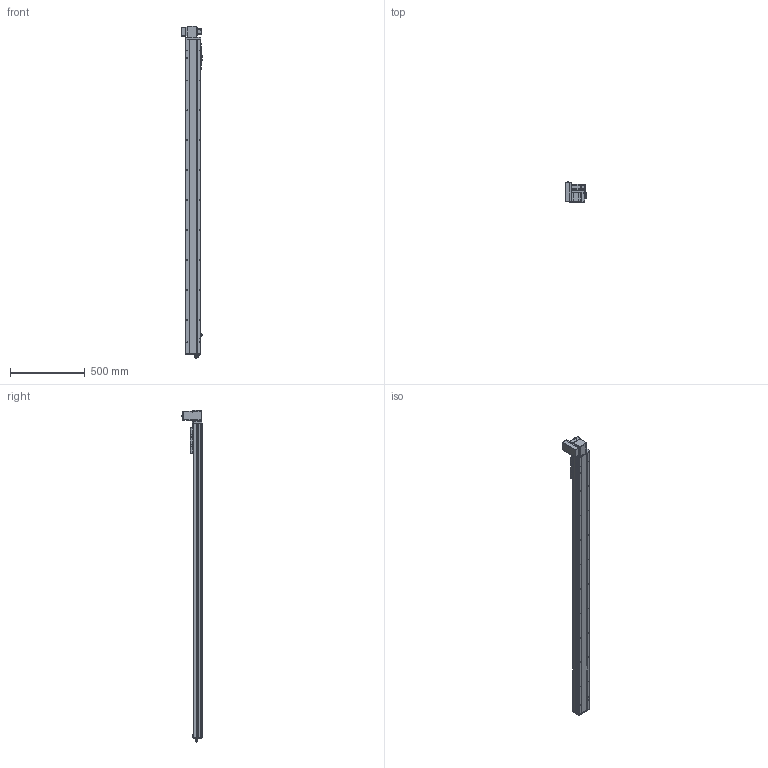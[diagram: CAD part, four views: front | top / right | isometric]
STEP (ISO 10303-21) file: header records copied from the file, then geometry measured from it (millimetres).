
FILE_DESCRIPTION (( 'STEP AP214' ), '1' );
FILE_NAME ('TPE10-L32-1850-LU-T10-C4.STEP', '2023-03-13T06:51:34', ( '' ), ( '' ), 'SwSTEP 2.0', 'SolidWorks 2020', '' );
FILE_SCHEMA (( 'AUTOMOTIVE_DESIGN' ));
Length unit declared in the file: millimetre
Products named in the file (15): 葩璃 TPF10 詩湍揤啣 TPF10 12^TPE10-L32-LU-T10-C4; 葩璃 TPT10-L-009 萇儂啣^TPE10-L32-LU-T10-C4_100W; 葩璃 TPE10-L-002 耜裔ZTMT-102B-04^TPE10-L32-LU-T10-C4; TPE10-L32-1850-LU-T10-C4; 葩璃 pm-t65-672^TPE10-L32-LU-T10-C4; 葩璃 侂狟100W^TPE10-L32-LU-T10-C4; 葩璃 TPE10 賑雄殤 TPE10^TPE10-L32-LU-T10-C4; 葩璃 PL8-02^TPE10-L32-LU-T10-C4; 葩璃 TPE10-007 々湍釱MZ-169x88^TPE10-L32-LU-T10-C4; 葩璃 TPE10-L-001 菁釱MZ-102A-01^TPE10-L32-LU-T10-C4; 葩璃 TPF10-L-008 耜醱啣^TPE10-L32-LU-T10-C4; hexagon socket head cap screws gb_GB_FASTENER_SCREWS_HSHCS M3X6-N; hex nuts, style 1-grades ab gb_GB_FASTENER_NUT_SNAB1 M3-N; 葩璃 詩湍75^TPE10-L32-LU-T10-C4; hexagon head bolts-full thread gb_GB_FASTENER_BOLT_STBAB A M5X16-N
Assembly tree (28 placements, depth 2):
  TPE10-L32-1850-LU-T10-C4
    葩璃 TPE10-L-001 菁釱MZ-102A-01^TPE10-L32-LU-T10-C4
    葩璃 TPE10-L-002 耜裔ZTMT-102B-04^TPE10-L32-LU-T10-C4  x2
    葩璃 詩湍75^TPE10-L32-LU-T10-C4
    葩璃 TPE10-007 々湍釱MZ-169x88^TPE10-L32-LU-T10-C4
    葩璃 TPF10-L-008 耜醱啣^TPE10-L32-LU-T10-C4
    葩璃 TPE10 賑雄殤 TPE10^TPE10-L32-LU-T10-C4
    葩璃 TPF10 詩湍揤啣 TPF10 12^TPE10-L32-LU-T10-C4  x2
    葩璃 TPT10-L-009 萇儂啣^TPE10-L32-LU-T10-C4_100W
    葩璃 pm-t65-672^TPE10-L32-LU-T10-C4  x3
    葩璃 PL8-02^TPE10-L32-LU-T10-C4
    葩璃 侂狟100W^TPE10-L32-LU-T10-C4
    hexagon socket head cap screws gb_GB_FASTENER_SCREWS_HSHCS M3X6-N  x6
    hex nuts, style 1-grades ab gb_GB_FASTENER_NUT_SNAB1 M3-N  x6
    hexagon head bolts-full thread gb_GB_FASTENER_BOLT_STBAB A M5X16-N
Bounding box: 146.2 x 134.65 x 2218.35 mm (x, y, z)
Volume: 6752095.3 mm3; surface area: 1700414.1 mm2
Topology: 36 solids, 36 shells, 1652 faces, 4206 edges, 2644 vertices
Faces by surface type: plane 899, cylinder 505, cone 196, torus 26, bspline 24, sphere 2
Entity records: 38768 total; most frequent: CARTESIAN_POINT 8021, DIRECTION 6076, ORIENTED_EDGE 5840, EDGE_CURVE 2920, AXIS2_PLACEMENT_3D 2149, VERTEX_POINT 1871, VECTOR 1778, LINE 1778
